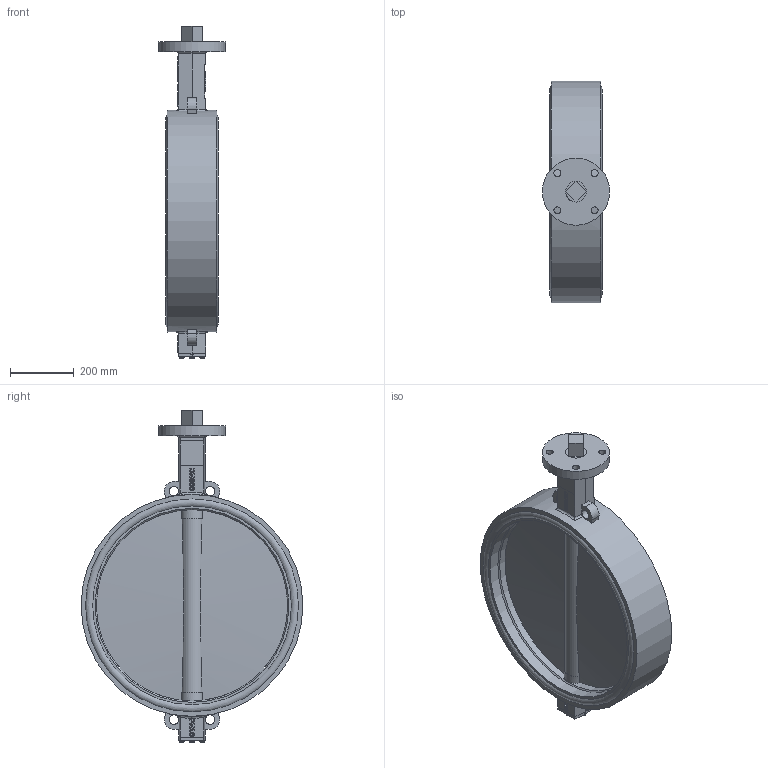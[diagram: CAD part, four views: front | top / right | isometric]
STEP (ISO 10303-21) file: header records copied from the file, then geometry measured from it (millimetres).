
FILE_DESCRIPTION(('STEP AP242'), '1');
FILE_NAME('Ïîâîðîòíûé çàòâîð ïîä ýëåêòðîïðèâîä', '', ('UNSPECIFIED'), ('UNSPECIFIED'), 'C3D Converter', 'C3D Toolkit', '');
FILE_SCHEMA(('AP242_MANAGED_MODEL_BASED_3D_ENGINEERING_MIM_LF { 1 0 10303 442 1 1 4 }'));
Length unit declared in the file: millimetre
Products named in the file (8): П
Assembly tree (11 placements, depth 2):
  (unnamed)
    (unnamed)
    П  x2
    (unnamed)
    (unnamed)
    (unnamed)
    (unnamed)
    (unnamed)  x4
Bounding box: 210 x 695 x 1040 mm (x, y, z)
Volume: 29252632.2 mm3; surface area: 2863013.6 mm2
Topology: 11 solids, 11 shells, 531 faces, 1336 edges, 865 vertices
Faces by surface type: plane 254, extrusion 159, cylinder 77, cone 19, torus 10, bspline 8, sphere 4
Full cylindrical faces by diameter (mm): 8 x4, 10 x12, 16 x8, 18.845 x1, 22 x4, 30 x4, 46 x6, 65.054 x5, 73.15 x4, 210 x1, 600 x1, 607.7 x2, 623.1 x2, 644.933 x4, 666.767 x4, 695 x1
Entity records: 22721 total; most frequent: CARTESIAN_POINT 9869, ORIENTED_EDGE 2232, DIRECTION 1656, EDGE_CURVE 1116, VERTEX_POINT 773, VECTOR 700, EDGE_LOOP 599, LINE 541
